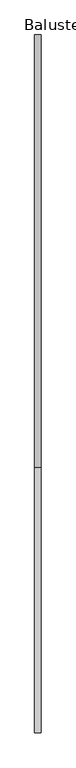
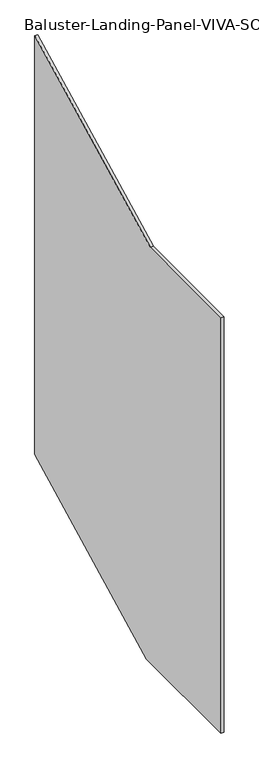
"""IFC4 building model written with IfcOpenShell, lengths in millimetres: railing geometry, Baluster-Landing-Panel-VIVA-SOLO-Upper : Standard_Glass."""

from ifc_helpers import new_model, si_unit, frame, origin, place, context, project, spatial, polyline, outline, extrude, source, transform, mapped, element, save


def baluster_landing_panel_viva_solo_upper_standard_glass_9b4894e7(model_context):
    return source(origin(), model_context, "Body", "SweptSolid", [
        extrude(outline(polyline([(-640.6252106, 1109.345), (0.0, 1435.4782226), (0.0, 20.32), (-619.8929649, -295.2587299), (-1032.9632336, -295.2587299), (-1032.9632336, 1109.345), (-640.6252106, 1109.345)])), frame((31.6077292, 0.0, 0.0), z_axis=(1.0, 0.0, 0.0), x_axis=(0.0, 1.0, 0.0)), (0.0, 0.0, 1.0), 9.525),
    ])


if __name__ == "__main__":
    model = new_model("IFC4")
    model_context = context("Model", 3, world=origin())
    ifc_project = project(units=[si_unit("LENGTHUNIT", "METRE", prefix="MILLI")], contexts=[model_context])
    site = spatial("IfcSite", under=ifc_project)
    building = spatial("IfcBuilding", under=site)
    placement = place(None, origin())
    baluster_landing_panel_viva_solo_upper_standard_glass_shape = baluster_landing_panel_viva_solo_upper_standard_glass_9b4894e7(model_context)
    element("IfcRailing", 1, ObjectType="Baluster-Landing-Panel-VIVA-SOLO-Upper : Standard_Glass", at=placement, inside=building, context=model_context, shape_type="MappedRepresentation", body=[
        mapped(baluster_landing_panel_viva_solo_upper_standard_glass_shape, transform((0.0, 0.0, 0.0), x_axis=(1.0, 0.0, 0.0), y_axis=(0.0, 1.0, 0.0), z_axis=(0.0, 0.0, 1.0))),
    ])
    save(model, "model.ifc")
